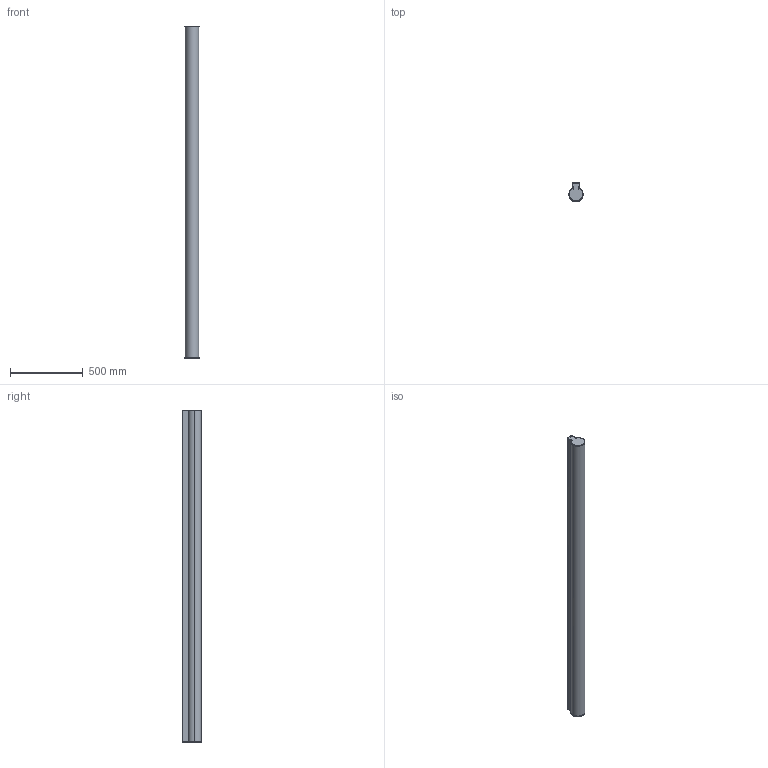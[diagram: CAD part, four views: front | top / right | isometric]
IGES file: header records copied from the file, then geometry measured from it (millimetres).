
Start section: SolidWorks IGES file using analytic representation for surfaces
Global section: file name: C:\Users\JoãoSantos\Desktop\02_3D.2D\01_2020\02_Linear\01_O975\01_Saliente\O975_2287.IGS; native system: SolidWorks 2020; preprocessor: SolidWorks 2020; author: JoãoSantos; date: 201021.111213; units: millimetre
Bounding box: 97.5 x 131.71 x 2287 mm (x, y, z)
Surface area: 1901490.6 mm2 (no closed solid volume)
Topology: 0 solids, 0 shells, 339 faces, 3550 edges, 3534 vertices
Faces by surface type: bspline 192, revolution 147
